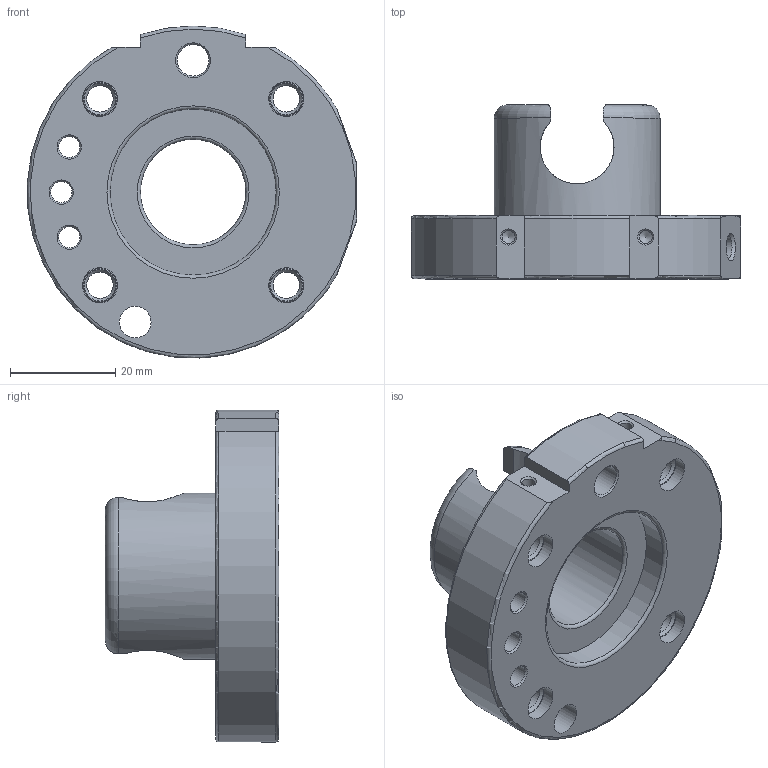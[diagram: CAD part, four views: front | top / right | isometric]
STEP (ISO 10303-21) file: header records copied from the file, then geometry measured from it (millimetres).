
FILE_DESCRIPTION(/* description */ (''),/* implementation_level */ '2;1');
FILE_NAME(/* name */ 'G-SHW063-2UEP-M6_2024.stp',/* time_stamp */ '2024-07-08T15:09:42+02:00',/* author */ ('ysplieth'),/* organization */ (''),/* preprocessor_version */ 'ST-DEVELOPER v20',/* originating_system */ 'Autodesk Inventor 2024',/* authorisation */ '');
FILE_SCHEMA (('AUTOMOTIVE_DESIGN { 1 0 10303 214 3 1 1 }'));
Length unit declared in the file: millimetre
Products named in the file (1): Bauteil3
Bounding box: 62.46 x 33 x 62.97 mm (x, y, z)
Volume: 34725.5 mm3; surface area: 15531 mm2
Topology: 1 solids, 1 shells, 187 faces, 494 edges, 326 vertices
Faces by surface type: plane 76, cone 57, cylinder 44, torus 10
Full cylindrical faces by diameter (mm): 2.459 x2, 4 x9, 4.2 x3, 5 x4, 6 x2, 6.5 x4, 6.647 x4, 10.8 x4, 11 x4, 20 x1, 31.5 x2
Entity records: 6763 total; most frequent: CARTESIAN_POINT 1939, ORIENTED_EDGE 972, DIRECTION 938, EDGE_CURVE 486, AXIS2_PLACEMENT_3D 374, VERTEX_POINT 326, EDGE_LOOP 238, LINE 190
